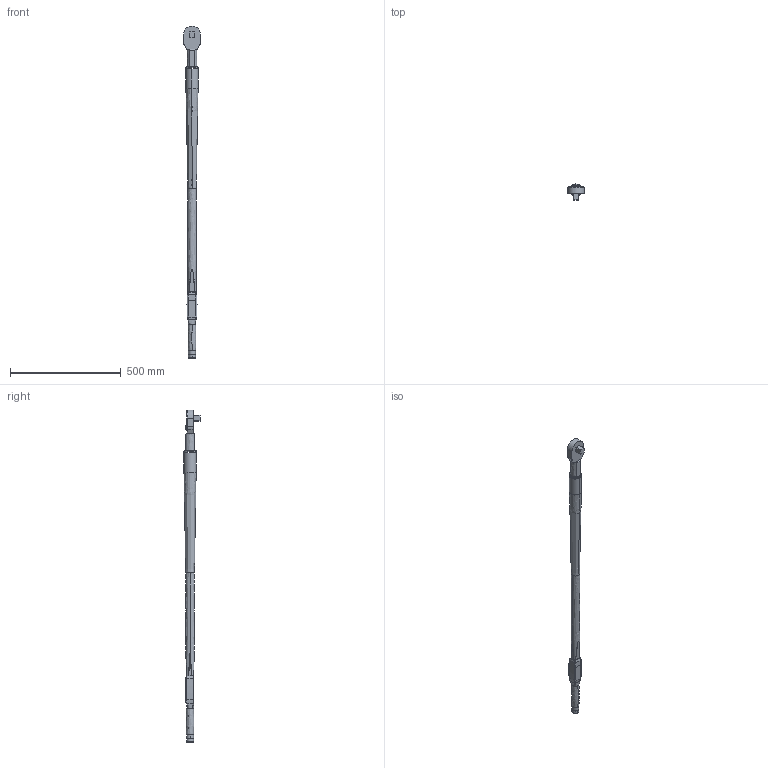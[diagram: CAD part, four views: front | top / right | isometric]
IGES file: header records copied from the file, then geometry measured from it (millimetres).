
Start section:  PTC IGES file: 6159352150_dim.igs
Global section: file name: 6159352150_dim.igs; native system: Creo Parametric by PTC Inc.; preprocessor: 2021072; author: S00000450; organization: Unknown; date: 20210628.093851; units: millimetre
Bounding box: 74 x 72.5 x 1499 mm (x, y, z)
Surface area: 218146.7 mm2 (no closed solid volume)
Topology: 0 solids, 0 shells, 156 faces, 842 edges, 841 vertices
Faces by surface type: bspline 86, revolution 62, extrusion 8
